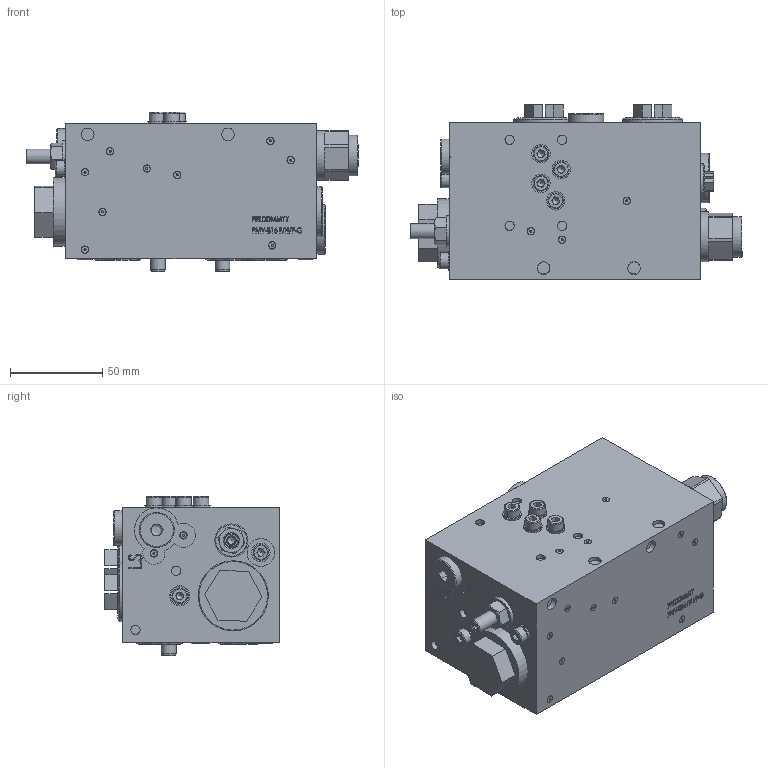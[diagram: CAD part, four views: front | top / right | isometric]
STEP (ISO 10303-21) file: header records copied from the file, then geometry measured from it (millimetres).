
FILE_DESCRIPTION (( 'STEP AP214' ), '1' );
FILE_NAME ('0301574.STEP', '2022-06-22T12:50:47', ( '' ), ( '' ), 'SwSTEP 2.0', 'SolidWorks 2020', '' );
FILE_SCHEMA (( 'AUTOMOTIVE_DESIGN' ));
Length unit declared in the file: millimetre
Products named in the file (20): 0289301_002; 0073842_153.2402; 0072022_238.5408; 0301574; 0290158_007; 0287187_001; 0287651_003; 0072022_238.3402; 0073837_049.2050; 0074697_246.2308; 0296651_003; 0072022_238.5405; 0290158_001; 0166400_001; 0288965_003; 0072126_221.5561; 0280258_001; 0283782_001; 0290158_005; 0072022_238.2406
Assembly tree (53 placements, depth 3):
  0301574
    0296651_003
    0287651_003
    0287187_001
    0073842_153.2402
    0280258_001  x2
    0289301_002
      0288965_003
      0072022_238.3402
    0072022_238.5408
    0072022_238.5405
    0072022_238.2406  x2
    0074697_246.2308  x6
    0073837_049.2050  x6
    0290158_001  x6
    0290158_007  x2
    0290158_005
    0283782_001  x16
    0072126_221.5561  x2
    0166400_001
Bounding box: 179.98 x 94.7 x 86.5 mm (x, y, z)
Volume: 921095 mm3; surface area: 106698.1 mm2
Topology: 79 solids, 79 shells, 1763 faces, 3706 edges, 2323 vertices
Faces by surface type: plane 891, cone 399, cylinder 303, bspline 149, torus 21
Full cylindrical faces by diameter (mm): 0.6 x16, 1.1 x16, 3.5 x16, 3.7 x1, 3.767 x16, 4 x23, 4.1 x1, 4.2 x5, 4.47 x6, 5 x12, 5.7 x6, 6 x1, 6.8 x11, 7 x1, 7.8 x6, 7.85 x12, 8 x5, 8.03 x6, 8.5 x6, 10 x6, 10.95 x1, 11.3 x2, 11.445 x3, 11.6 x2, 13.16 x1, 13.2 x2, 14.5 x1, 14.6 x1, 15 x1, 16 x1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
Entity records: 35407 total; most frequent: CARTESIAN_POINT 11955, DIRECTION 4149, ORIENTED_EDGE 4084, EDGE_CURVE 2042, VERTEX_POINT 1461, AXIS2_PLACEMENT_3D 1422, EDGE_LOOP 1417, VECTOR 1305
